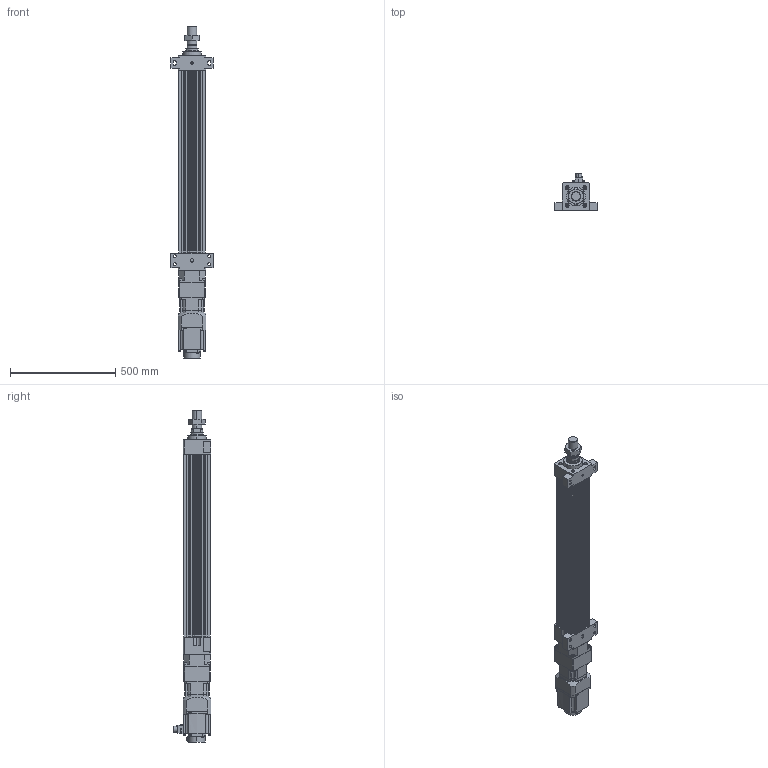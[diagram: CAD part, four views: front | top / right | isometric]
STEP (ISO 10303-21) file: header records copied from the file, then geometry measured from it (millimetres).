
FILE_DESCRIPTION (( 'STEP AP203' ), '1' );
FILE_NAME ('HES130NS(FS)(HS)-S650-W015G00-M-FFB.STEP', '2023-01-30T09:26:08', ( 'tms' ), ( '' ), 'SwSTEP 2.0', 'SolidWorks 2013', '' );
FILE_SCHEMA (( 'CONFIG_CONTROL_DESIGN' ));
Length unit declared in the file: millimetre
Products named in the file (8): HES130NS(FS)(HS)-S650-W015G00-M-FFB; P0401400706; HES130-S650-G120-FFB; HG-SR152; AB115-003[HG-SR152]; HES130 ROD M ST650; AB1151; M45X1.5P
Assembly tree (7 placements, depth 3):
  HES130NS(FS)(HS)-S650-W015G00-M-FFB
    HES130-S650-G120-FFB
    HES130 ROD M ST650
    M45X1.5P
    AB115-003[HG-SR152]
      AB1151
      P0401400706
    HG-SR152
Bounding box: 200 x 177.49 x 1579.5 mm (x, y, z)
Volume: 12644890 mm3; surface area: 1663871.3 mm2
Topology: 4 solids, 15 shells, 1211 faces, 3070 edges, 1998 vertices
Faces by surface type: plane 571, cylinder 546, cone 82, bspline 8, torus 4
Entity records: 38310 total; most frequent: CARTESIAN_POINT 7264, DIRECTION 6633, ORIENTED_EDGE 6092, EDGE_CURVE 3056, AXIS2_PLACEMENT_3D 2435, VERTEX_POINT 1998, LINE 1763, VECTOR 1763
